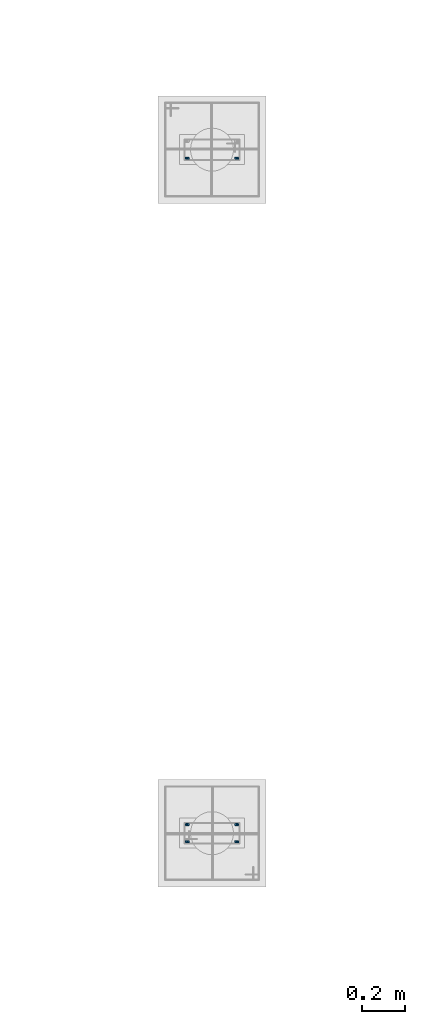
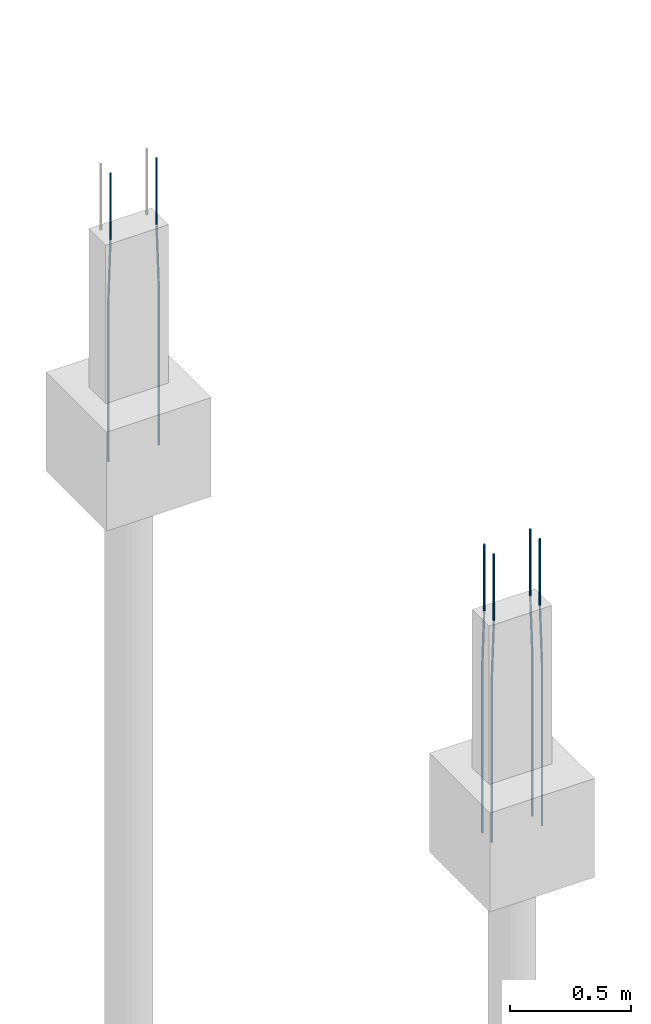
# One storey, part 49 of 119: 6 reinforcing bars.
"""IFC4 building model written with IfcOpenShell, lengths in centimetres."""

from ifc_helpers import new_model, entity, si_unit, derived_unit, frame, origin_with_axes, place, context, project, spatial, element, save


model = new_model("IFC4")

# Units and contexts
model_context = context("Model", 3, precision=1e-05, world=origin_with_axes(), identifier="Body")
ifc_project = project(units=[si_unit("LENGTHUNIT", "METRE", prefix="CENTI"), si_unit("VOLUMEUNIT", "CUBIC_METRE"), si_unit("AREAUNIT", "SQUARE_METRE"), si_unit("POWERUNIT", "WATT"), si_unit("LUMINOUSFLUXUNIT", "LUMEN"), si_unit("ELECTRICCURRENTUNIT", "AMPERE"), si_unit("PRESSUREUNIT", "PASCAL", prefix="KILO"), si_unit("MASSUNIT", "GRAM", prefix="KILO"), si_unit("PLANEANGLEUNIT", "RADIAN"), derived_unit("VOLUMETRICFLOWRATEUNIT", [(si_unit("LENGTHUNIT", "METRE"), 3), (si_unit("TIMEUNIT", "SECOND"), -1)])], contexts=[model_context])

# Site, building, storey
site_placement = place(None, frame((-4000.0, 0.0, 0.0), z_axis=(0.0, 0.0, 1.0), x_axis=(1.0, 0.0, 0.0)))
site = spatial("IfcSite", under=ifc_project, at=site_placement, Name="PADRÃO")
building_placement = place(site_placement, frame((0.0, 0.0, -14.0)))
building = spatial("IfcBuilding", under=site, at=building_placement, Name="CRECHE PRÉ-ESCOLA TIPO 2")
storey_placement = place(building_placement, origin_with_axes())
storey = spatial("IfcBuildingStorey", under=building, at=storey_placement, Name="FUNDAÇÃO", CompositionType="ELEMENT", Elevation=-14.0)

# Reinforcing bars
reinforcing_bar_1_placement = place(storey_placement, frame((1365.34, 3981.0, 33.3573001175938), z_axis=(0.0, 0.0, 1.0), x_axis=(1.0, 0.0, 0.0)))
element("IfcReinforcingBar", 1, at=reinforcing_bar_1_placement, inside=storey, Name="P25 - Longitudinal", BarLength=0.0, CrossSectionArea=7.853981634e-05, NominalDiameter=1.0, PredefinedType="MAIN", context=model_context, shape_type="AdvancedSweptSolid", body=[
    entity("IfcSweptDiskSolid", entity("IfcCompositeCurve", [entity("IfcCompositeCurveSegment", "CONTINUOUS", True, entity("IfcPolyline", [entity("IfcCartesianPoint", [-0.5, 0.0, -145.357300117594]), entity("IfcCartesianPoint", [-0.5, 0.0, -63.3573001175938])])), entity("IfcCompositeCurveSegment", "CONTINUOUS", True, entity("IfcPolyline", [entity("IfcCartesianPoint", [-0.5, 0.0, -63.3573001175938]), entity("IfcCartesianPoint", [0.5, 0.0, -33.3573001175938])])), entity("IfcCompositeCurveSegment", "CONTINUOUS", True, entity("IfcPolyline", [entity("IfcCartesianPoint", [0.5, 0.0, -33.3573001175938]), entity("IfcCartesianPoint", [0.5, 0.0, 0.0])]))], False), 0.5),
])
for number, where, z_axis, x_axis, name in (
    (2, (1388.34, 3981.0, 33.3573001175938), (0.0, 0.0, 1.0), (1.0, 0.0, 0.0), "P25 - Longitudinal"),
    (3, (1388.34, 3663.5, 33.3573001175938), (0.0, 0.0, 1.0), (1.0, 0.0, 0.0), "P33 - Longitudinal"),
):
    element("IfcReinforcingBar", number, at=place(storey_placement, frame(where, z_axis=z_axis, x_axis=x_axis)), inside=storey, Name=name, BarLength=0.0, CrossSectionArea=7.853981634e-05, NominalDiameter=1.0, PredefinedType="MAIN", context=model_context, shape_type="AdvancedSweptSolid", body=[
        entity("IfcSweptDiskSolid", entity("IfcCompositeCurve", [entity("IfcCompositeCurveSegment", "CONTINUOUS", True, entity("IfcPolyline", [entity("IfcCartesianPoint", [0.5, 0.0, -145.357300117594]), entity("IfcCartesianPoint", [0.5, 0.0, -63.3573001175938])])), entity("IfcCompositeCurveSegment", "CONTINUOUS", True, entity("IfcPolyline", [entity("IfcCartesianPoint", [0.5, 0.0, -63.3573001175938]), entity("IfcCartesianPoint", [-0.5, 0.0, -33.3573001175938])])), entity("IfcCompositeCurveSegment", "CONTINUOUS", True, entity("IfcPolyline", [entity("IfcCartesianPoint", [-0.5, 0.0, -33.3573001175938]), entity("IfcCartesianPoint", [-0.5, 0.0, 0.0])]))], False), 0.5),
    ])
for number, where, z_axis, x_axis, name in (
    (4, (1365.34, 3663.5, 33.3573001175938), (0.0, 0.0, 1.0), (1.0, 0.0, 0.0), "P33 - Longitudinal"),
    (5, (1365.34, 3671.5, 33.3573001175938), (0.0, 0.0, 1.0), (1.0, 0.0, 0.0), "P33 - Longitudinal"),
):
    element("IfcReinforcingBar", number, at=place(storey_placement, frame(where, z_axis=z_axis, x_axis=x_axis)), inside=storey, Name=name, BarLength=0.0, CrossSectionArea=7.853981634e-05, NominalDiameter=1.0, PredefinedType="MAIN", context=model_context, shape_type="AdvancedSweptSolid", body=[
        entity("IfcSweptDiskSolid", entity("IfcCompositeCurve", [entity("IfcCompositeCurveSegment", "CONTINUOUS", True, entity("IfcPolyline", [entity("IfcCartesianPoint", [-0.5, 0.0, -145.357300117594]), entity("IfcCartesianPoint", [-0.5, 0.0, -63.3573001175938])])), entity("IfcCompositeCurveSegment", "CONTINUOUS", True, entity("IfcPolyline", [entity("IfcCartesianPoint", [-0.5, 0.0, -63.3573001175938]), entity("IfcCartesianPoint", [0.5, 0.0, -33.3573001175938])])), entity("IfcCompositeCurveSegment", "CONTINUOUS", True, entity("IfcPolyline", [entity("IfcCartesianPoint", [0.5, 0.0, -33.3573001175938]), entity("IfcCartesianPoint", [0.5, 0.0, 0.0])]))], False), 0.5),
    ])
reinforcing_bar_2_placement = place(storey_placement, frame((1388.34, 3671.5, 33.3573001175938), z_axis=(0.0, 0.0, 1.0), x_axis=(1.0, 0.0, 0.0)))
element("IfcReinforcingBar", 6, at=reinforcing_bar_2_placement, inside=storey, Name="P33 - Longitudinal", BarLength=0.0, CrossSectionArea=7.853981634e-05, NominalDiameter=1.0, PredefinedType="MAIN", context=model_context, shape_type="AdvancedSweptSolid", body=[
    entity("IfcSweptDiskSolid", entity("IfcCompositeCurve", [entity("IfcCompositeCurveSegment", "CONTINUOUS", True, entity("IfcPolyline", [entity("IfcCartesianPoint", [0.5, 0.0, -145.357300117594]), entity("IfcCartesianPoint", [0.5, 0.0, -63.3573001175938])])), entity("IfcCompositeCurveSegment", "CONTINUOUS", True, entity("IfcPolyline", [entity("IfcCartesianPoint", [0.5, 0.0, -63.3573001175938]), entity("IfcCartesianPoint", [-0.5, 0.0, -33.3573001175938])])), entity("IfcCompositeCurveSegment", "CONTINUOUS", True, entity("IfcPolyline", [entity("IfcCartesianPoint", [-0.5, 0.0, -33.3573001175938]), entity("IfcCartesianPoint", [-0.5, 0.0, 0.0])]))], False), 0.5),
])

save(model, "model.ifc")
